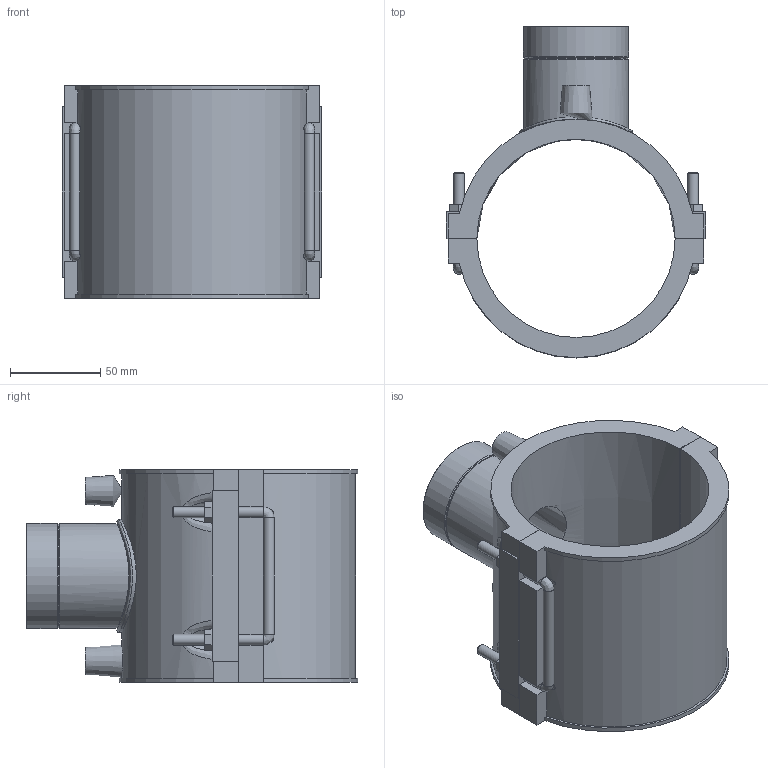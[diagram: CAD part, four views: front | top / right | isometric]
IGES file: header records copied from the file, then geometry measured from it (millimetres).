
Global section: file name: 493804110015.ipt; native system: Autodesk Inventor 2015; preprocessor: unknown; author: KIM; date: 20171106.094103; units: millimetre
Bounding box: 144 x 184.1 x 118 mm (x, y, z)
Volume: 563655.2 mm3; surface area: 134475.5 mm2
Topology: 2 solids, 4 shells, 162 faces, 408 edges, 258 vertices
Faces by surface type: plane 98, cylinder 28, revolution 14, bspline 13, cone 9
Full cylindrical faces by diameter (mm): 4 x2, 6 x8, 57.298 x1, 58.298 x2, 62.783 x1
